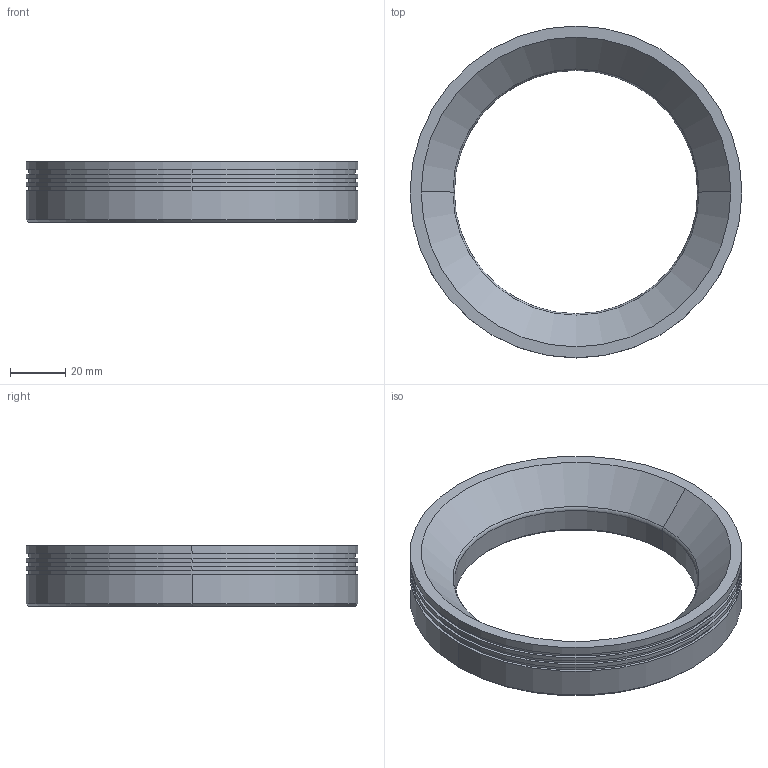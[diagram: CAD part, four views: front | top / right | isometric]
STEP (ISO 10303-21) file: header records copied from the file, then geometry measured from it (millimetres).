
FILE_DESCRIPTION((''),'2;1');
FILE_NAME('DRL7030','2020-03-28T',('ASUS'),(''),'PRO/ENGINEER BY PARAMETRIC TECHNOLOGY CORPORATION, 2008380','PRO/ENGINEER BY PARAMETRIC TECHNOLOGY CORPORATION, 2008380','');
FILE_SCHEMA(('CONFIG_CONTROL_DESIGN'));
Length unit declared in the file: millimetre
Products named in the file (1): DRL7030
Bounding box: 120 x 120 x 22 mm (x, y, z)
Volume: 91097.1 mm3; surface area: 25327.9 mm2
Topology: 1 solids, 5 shells, 68 faces, 152 edges, 92 vertices
Faces by surface type: cylinder 32, cone 22, plane 12, torus 2
Entity records: 1901 total; most frequent: DIRECTION 372, CARTESIAN_POINT 305, ORIENTED_EDGE 272, AXIS2_PLACEMENT_3D 159, EDGE_CURVE 144, VERTEX_POINT 92, CIRCLE 90, EDGE_LOOP 84
